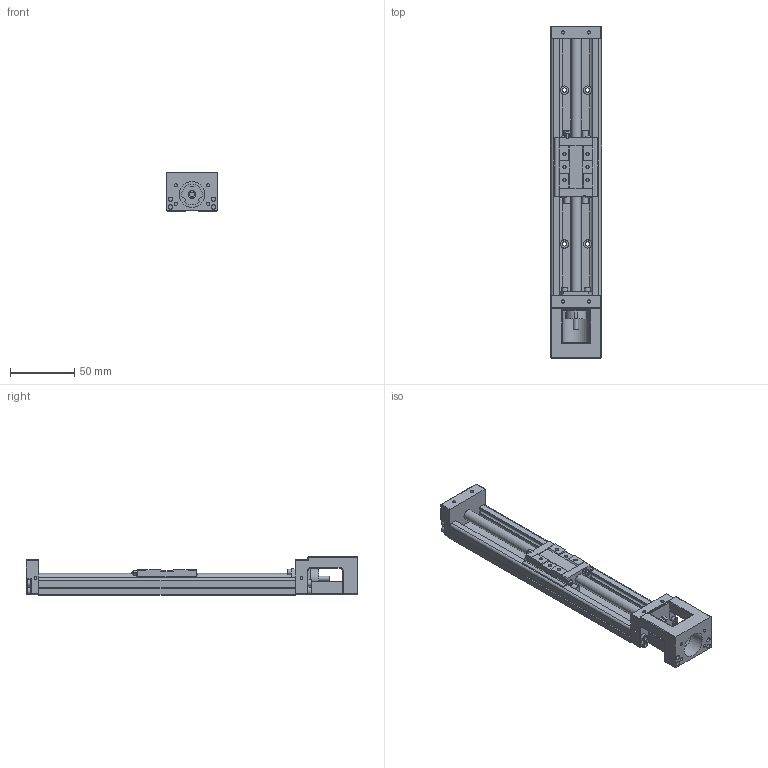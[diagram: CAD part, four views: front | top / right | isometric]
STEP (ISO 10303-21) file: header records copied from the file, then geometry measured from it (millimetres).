
FILE_DESCRIPTION(/* description */ (''),/* implementation_level */ '2;1');
FILE_NAME(/* name */ 'FKL40E200 2.5C7.stp',/* time_stamp */ '2018-12-26T14:39:07+08:00',/* author */ (''),/* organization */ (''),/* preprocessor_version */ 'ST-DEVELOPER v16',/* originating_system */ 'SIEMENS PLM Software NX 10.0',/* authorisation */ '');
FILE_SCHEMA (('AUTOMOTIVE_DESIGN { 1 0 10303 214 3 1 1 1 }'));
Length unit declared in the file: millimetre
Products named in the file (3): 滑块.KK40-A1; 轨道.KK40-200; FKL40E200 2.5C7
Assembly tree (2 placements, depth 2):
  FKL40E200 2.5C7
    轨道.KK40-200
    滑块.KK40-A1
Bounding box: 40 x 259 x 30 mm (x, y, z)
Volume: 125287.6 mm3; surface area: 53588.3 mm2
Topology: 2 solids, 2 shells, 524 faces, 1382 edges, 897 vertices
Faces by surface type: plane 340, cylinder 151, sphere 13, torus 10, cone 8, bspline 2
Full cylindrical faces by diameter (mm): 2.05 x4, 2.5 x15, 3.4 x6, 3.5 x4, 4 x1, 4.4 x8, 5 x7, 5.3 x8, 6 x2, 6.5 x6, 8 x2, 20 x1
Entity records: 16080 total; most frequent: CARTESIAN_POINT 3355, DIRECTION 2535, ORIENTED_EDGE 2468, EDGE_CURVE 1234, AXIS2_PLACEMENT_3D 850, VERTEX_POINT 838, LINE 835, VECTOR 835
